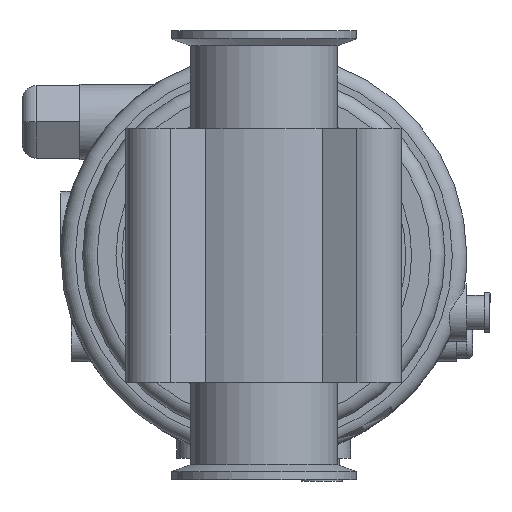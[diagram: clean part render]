
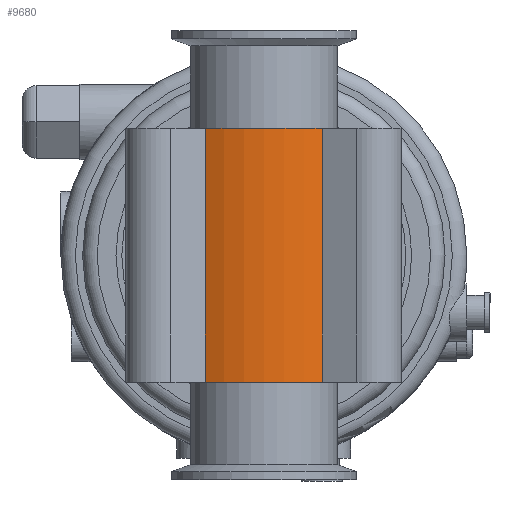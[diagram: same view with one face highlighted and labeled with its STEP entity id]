
A CAD part, front view. The second image highlights one B-rep face of the part: STEP entity #9680.
In plain terms, the highlighted cylindrical face has radius 45.4 mm (diameter 90.8 mm), a partial arc.
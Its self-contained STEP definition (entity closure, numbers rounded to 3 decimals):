
#2980=CARTESIAN_POINT('',(12.,-43.017,-14.515));
#2990=VERTEX_POINT('',#2980);
#3020=CARTESIAN_POINT('',(12.,-43.017,-14.515));
#3030=DIRECTION('',(-1.,0.,0.));
#3040=VECTOR('',#3030,1.);
#3050=LINE('',#3020,#3040);
#3060=CARTESIAN_POINT('',(-75.5,-43.017,-14.515));
#3070=VERTEX_POINT('',#3060);
#3080=EDGE_CURVE('',#2990,#3070,#3050,.T.);
#5240=CARTESIAN_POINT('',(-75.5,0.,0.));
#5250=DIRECTION('',(-1.,0.,0.));
#5260=DIRECTION('',(0.,0.,1.));
#5270=AXIS2_PLACEMENT_3D('',#5240,#5250,#5260);
#5280=CIRCLE('',#5270,45.4);
#5290=CARTESIAN_POINT('',(-75.5,-14.515,-43.017));
#5300=VERTEX_POINT('',#5290);
#5310=EDGE_CURVE('',#5300,#3070,#5280,.T.);
#7090=CARTESIAN_POINT('',(12.,-14.515,-43.017));
#7100=VERTEX_POINT('',#7090);
#7130=CARTESIAN_POINT('',(12.,0.,0.));
#7140=DIRECTION('',(-1.,0.,0.));
#7150=DIRECTION('',(0.,0.,1.));
#7160=AXIS2_PLACEMENT_3D('',#7130,#7140,#7150);
#7170=CIRCLE('',#7160,45.4);
#7180=EDGE_CURVE('',#7100,#2990,#7170,.T.);
#9240=CARTESIAN_POINT('',(12.,-14.515,-43.017));
#9250=DIRECTION('',(-1.,0.,0.));
#9260=VECTOR('',#9250,1.);
#9270=LINE('',#9240,#9260);
#9280=EDGE_CURVE('',#7100,#5300,#9270,.T.);
#9570=CARTESIAN_POINT('',(110.,0.,0.));
#9580=DIRECTION('',(-1.,0.,0.));
#9590=DIRECTION('',(0.,0.,1.));
#9600=AXIS2_PLACEMENT_3D('',#9570,#9580,#9590);
#9610=CYLINDRICAL_SURFACE('',#9600,45.4);
#9620=ORIENTED_EDGE('',*,*,#5310,.F.);
#9630=ORIENTED_EDGE('',*,*,#3080,.T.);
#9640=ORIENTED_EDGE('',*,*,#7180,.T.);
#9650=ORIENTED_EDGE('',*,*,#9280,.F.);
#9660=EDGE_LOOP('',(#9650,#9640,#9630,#9620));
#9670=FACE_OUTER_BOUND('',#9660,.T.);
#9680=ADVANCED_FACE('',(#9670),#9610,.T.);
